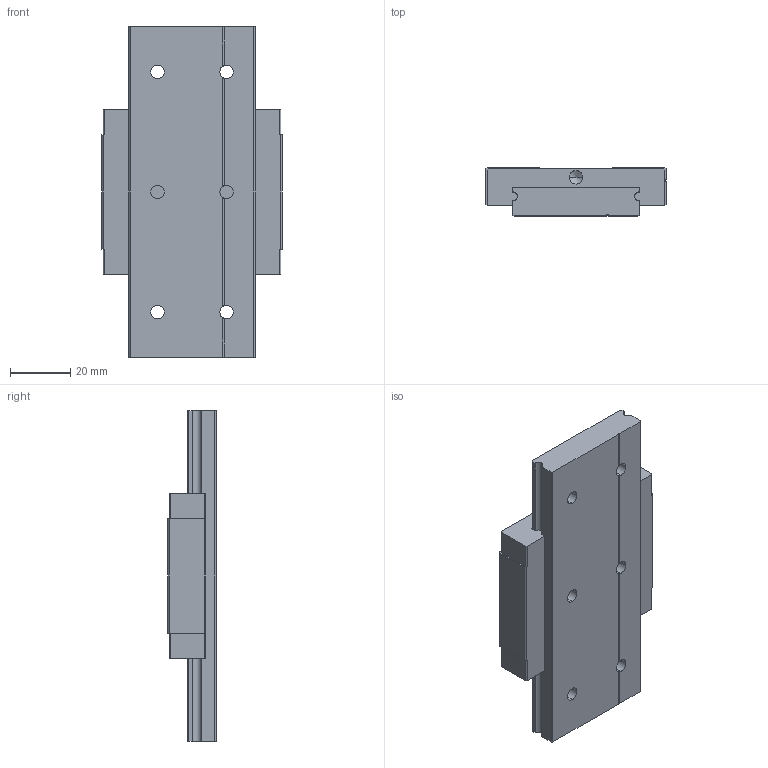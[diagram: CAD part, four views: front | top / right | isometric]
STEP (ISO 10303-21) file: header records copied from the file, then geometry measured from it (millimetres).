
FILE_DESCRIPTION (( 'STEP AP214' ), '1' );
FILE_NAME ('7.1064 Lineaarikelkka MTW15C.STEP', '2026-03-16T07:58:41', ( '' ), ( '' ), 'SwSTEP 2.0', 'SolidWorks 2025', '' );
FILE_SCHEMA (( 'AUTOMOTIVE_DESIGN' ));
Length unit declared in the file: millimetre
Products named in the file (1): 7.1064 Lineaarikelkka MTW15C
Bounding box: 60 x 16 x 110 mm (x, y, z)
Volume: 67866.9 mm3; surface area: 23435.9 mm2
Topology: 2 solids, 2 shells, 228 faces, 615 edges, 400 vertices
Faces by surface type: plane 137, cylinder 48, bspline 31, cone 12
Entity records: 11720 total; most frequent: CARTESIAN_POINT 3622, ORIENTED_EDGE 1206, DIRECTION 1027, EDGE_CURVE 603, LINE 439, VECTOR 439, VERTEX_POINT 400, AXIS2_PLACEMENT_3D 294
